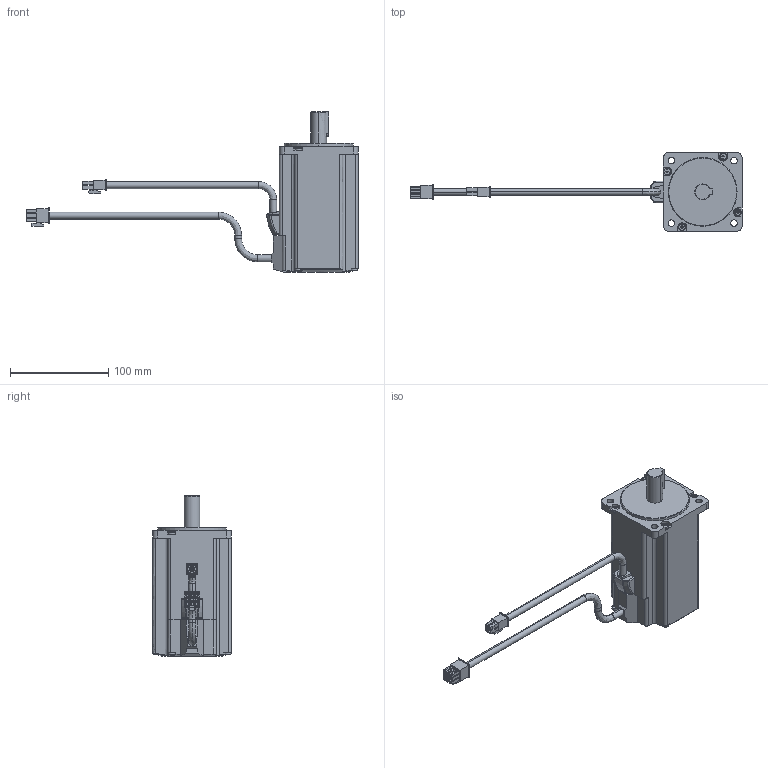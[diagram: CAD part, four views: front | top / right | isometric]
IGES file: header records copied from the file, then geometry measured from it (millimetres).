
Start section:  PTC IGES file: 10001044_rsmz-06bq-bh_no-brake.igs
Global section: file name: 10001044_rsmz-06bq-bh_no-brake.igs; native system: Pro/ENGINEER by Parametric Technology Corporation; preprocessor: 2004440; author: Administrator; organization: Unknown; date: 070829.201816; units: millimetre
Bounding box: 337.7 x 80 x 163 mm (x, y, z)
Volume: 743787.9 mm3; surface area: 70986.8 mm2
Topology: 1 solids, 1 shells, 462 faces, 1172 edges, 760 vertices
Faces by surface type: bspline 332, revolution 130
